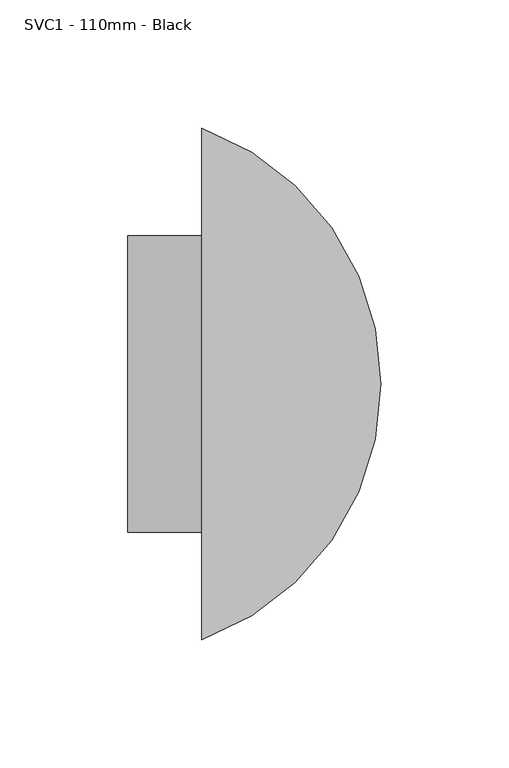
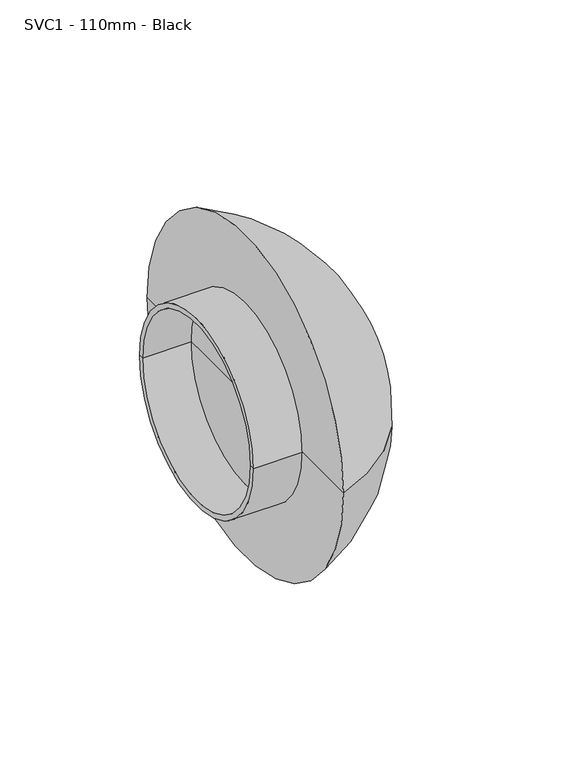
"""IFC4 building model written with IfcOpenShell, lengths in millimetres: pipe fitting geometry, MarleyPlumbingAndDrainage_PipeFitting_RoofCownVent : SVC1 - 110mm - Black."""

from ifc_helpers import new_model, si_unit, point, frame, origin, place, context, project, spatial, polyline, circle_curve, ellipse_curve, trimmed, source, transform, mapped, element, save
from ifc_brep_helpers import plane_surface, cylinder_surface, revolved_surface, advanced_brep


def svc1_110mm_black_98830061(model_context):
    return source(origin(), model_context, "Body", "AdvancedBrep", [
        advanced_brep(
        [(-330.6858175, 0.0, 0.0), (-330.6858175, 100.0, 0.0), (-330.6858175, -100.0, 0.0), (-260.6858175, 0.0, 0.0)],
        [
            (0, 1),
            (1, 2, circle_curve(frame((-330.6858175, 0.0, 0.0), z_axis=(-1.0, 0.0, 0.0), x_axis=(0.0, 1.0, 0.0)), 100.0)),
            (2, 0),
            (2, 1, circle_curve(frame((-330.6858175, 0.0, 0.0), z_axis=(-1.0, 0.0, 0.0), x_axis=(0.0, 1.0, 0.0)), 100.0)),
            (1, 3, circle_curve(frame((-367.1143889, 0.0, 0.0), z_axis=(0.0, 0.0, -1.0), x_axis=(1.0, 0.0, 0.0)), 106.4285714)),
            (3, 2, circle_curve(frame((-367.1143889, 0.0, 0.0), z_axis=(0.0, 0.0, -1.0), x_axis=(1.0, 0.0, 0.0)), 106.4285714)),
        ],
        [
            plane_surface(frame((-330.6858175, 0.0, 0.0), z_axis=(-1.0, 0.0, 0.0), x_axis=(0.0, 1.0, 0.0))),
            revolved_surface(trimmed(ellipse_curve(frame((-367.1143889, 0.0, 0.0), z_axis=(0.0, 0.0, 1.0), x_axis=(1.0, 0.0, 0.0)), 106.4285714, 106.4285714), [point((-260.6858175, 0.0, 0.0))], [point((-330.6858175, 100.0, 0.0))], True, "CARTESIAN"), (1523.71262, 0.0, 0.0), (-1.0, 0.0, 0.0)),
        ],
        [
            (0, [[1, 2, 3]]),
            (0, [[-3, 4, -1]]),
            (1, [[-2, 5, 6]]),
            (1, [[-4, -6, -5]]),
        ],
    ),
        advanced_brep(
        [(-359.4858175, -58.0, 0.0), (-359.4858175, 58.0, 0.0), (-330.6858175, 58.0, 0.0), (-330.6858175, -58.0, 0.0), (-359.4858175, -55.0, 0.0), (-359.4858175, 55.0, 0.0), (-330.6858175, -55.0, 0.0), (-330.6858175, 55.0, 0.0)],
        [
            (0, 1, circle_curve(frame((-359.4858175, 0.0, 0.0), z_axis=(1.0, 0.0, 0.0), x_axis=(0.0, 1.0, 0.0)), 58.0)),
            (1, 2),
            (2, 3, circle_curve(frame((-330.6858175, 0.0, 0.0), z_axis=(-1.0, 0.0, 0.0), x_axis=(0.0, 1.0, 0.0)), 58.0)),
            (3, 0),
            (1, 0, circle_curve(frame((-359.4858175, 0.0, 0.0), z_axis=(1.0, 0.0, 0.0), x_axis=(0.0, 1.0, 0.0)), 58.0)),
            (3, 2, circle_curve(frame((-330.6858175, 0.0, 0.0), z_axis=(-1.0, 0.0, 0.0), x_axis=(0.0, 1.0, 0.0)), 58.0)),
            (4, 5, circle_curve(frame((-359.4858175, 0.0, 0.0), z_axis=(1.0, 0.0, 0.0), x_axis=(0.0, 1.0, 0.0)), 55.0)),
            (5, 1),
            (0, 4),
            (5, 4, circle_curve(frame((-359.4858175, 0.0, 0.0), z_axis=(1.0, 0.0, 0.0), x_axis=(0.0, 1.0, 0.0)), 55.0)),
            (6, 7, circle_curve(frame((-330.6858175, 0.0, 0.0), z_axis=(1.0, 0.0, 0.0), x_axis=(0.0, 1.0, 0.0)), 55.0)),
            (7, 5),
            (4, 6),
            (7, 6, circle_curve(frame((-330.6858175, 0.0, 0.0), z_axis=(1.0, 0.0, 0.0), x_axis=(0.0, 1.0, 0.0)), 55.0)),
            (2, 7),
            (6, 3),
        ],
        [
            cylinder_surface(frame((1523.71262, 0.0, 0.0), z_axis=(-1.0, 0.0, 0.0), x_axis=(0.0, 1.0, 0.0)), 58.0),
            plane_surface(frame((-359.4858175, 0.0, 0.0), z_axis=(-1.0, 0.0, 0.0), x_axis=(0.0, 1.0, 0.0))),
            revolved_surface(polyline([(-359.48581749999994, 55.0, 0.0), (-330.6858175, 55.0, 0.0)]), (1523.71262, 0.0, 0.0), (-1.0, 0.0, 0.0)),
            plane_surface(frame((-330.6858175, 0.0, 0.0), z_axis=(1.0, 0.0, 0.0), x_axis=(0.0, 1.0, 0.0))),
        ],
        [
            (0, [[1, 2, 3, 4]]),
            (0, [[5, -4, 6, -2]]),
            (1, [[7, 8, -1, 9]]),
            (1, [[10, -9, -5, -8]]),
            (2, [[11, 12, -7, 13]]),
            (2, [[14, -13, -10, -12]]),
            (3, [[-3, 15, -11, 16]]),
            (3, [[-6, -16, -14, -15]]),
        ],
    ),
    ])


if __name__ == "__main__":
    model = new_model("IFC4")
    model_context = context("Model", 3, world=origin())
    ifc_project = project(units=[si_unit("LENGTHUNIT", "METRE", prefix="MILLI")], contexts=[model_context])
    site = spatial("IfcSite", under=ifc_project)
    building = spatial("IfcBuilding", under=site)
    placement = place(None, origin())
    svc1_110mm_black_shape = svc1_110mm_black_98830061(model_context)
    element("IfcPipeFitting", 1, ObjectType="MarleyPlumbingAndDrainage_PipeFitting_RoofCownVent : SVC1 - 110mm - Black", at=placement, inside=building, context=model_context, shape_type="MappedRepresentation", body=[
        mapped(svc1_110mm_black_shape, transform((0.0, 0.0, 0.0), x_axis=(1.0, 0.0, 0.0), y_axis=(0.0, 1.0, 0.0), z_axis=(0.0, 0.0, 1.0))),
    ])
    save(model, "model.ifc")
